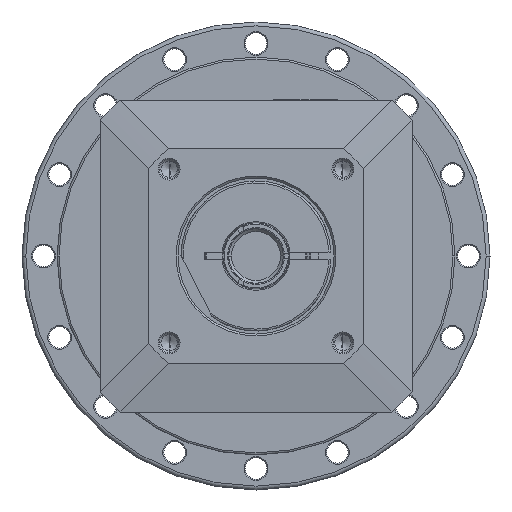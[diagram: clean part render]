
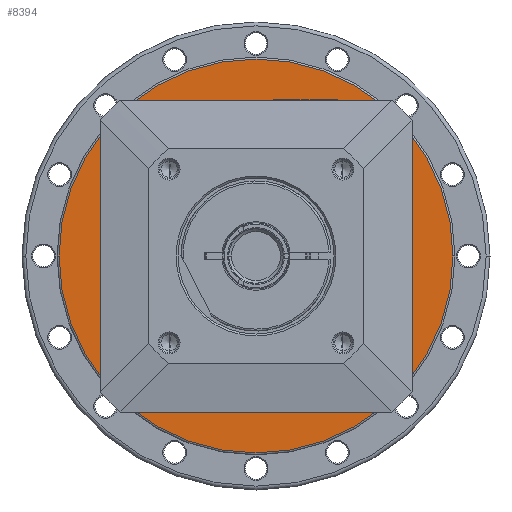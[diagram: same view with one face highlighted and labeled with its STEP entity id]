
A CAD part, left-side view. The second image highlights one B-rep face of the part: STEP entity #8394.
In plain terms, the highlighted planar face has unit normal (-1, 0, 0) as drawn and (1, 0, 0) by its records, which use the part's own axes.
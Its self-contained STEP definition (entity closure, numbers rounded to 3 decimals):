
#7873=CARTESIAN_POINT('',(-10.5,0.,0.));
#7874=DIRECTION('',(-1.,0.,0.));
#7875=DIRECTION('',(0.,-1.,0.));
#7876=AXIS2_PLACEMENT_3D('',#7873,#7874,#7875);
#7878=CARTESIAN_POINT('',(-10.5,0.,0.));
#7879=DIRECTION('',(-1.,0.,0.));
#7880=DIRECTION('',(0.,1.,0.));
#7881=AXIS2_PLACEMENT_3D('',#7878,#7879,#7880);
#7883=CARTESIAN_POINT('',(-10.5,0.,0.));
#7884=DIRECTION('',(-1.,0.,0.));
#7885=DIRECTION('',(0.,-1.,0.));
#7886=AXIS2_PLACEMENT_3D('',#7883,#7884,#7885);
#7888=CARTESIAN_POINT('',(-10.5,0.,0.));
#7889=DIRECTION('',(-1.,0.,0.));
#7890=DIRECTION('',(0.,1.,0.));
#7891=AXIS2_PLACEMENT_3D('',#7888,#7889,#7890);
#7957=CARTESIAN_POINT('',(-10.5,-50.5,0.));
#7958=CARTESIAN_POINT('',(-10.5,50.5,0.));
#7959=VERTEX_POINT('',#7957);
#7960=VERTEX_POINT('',#7958);
#7981=CARTESIAN_POINT('',(-10.5,-38.,0.));
#7982=CARTESIAN_POINT('',(-10.5,38.,0.));
#7983=VERTEX_POINT('',#7981);
#7984=VERTEX_POINT('',#7982);
#8379=CARTESIAN_POINT('',(-10.5,0.,0.));
#8380=DIRECTION('',(1.,0.,0.));
#8381=DIRECTION('',(0.,-1.,0.));
#8382=AXIS2_PLACEMENT_3D('',#8379,#8380,#8381);
#8383=PLANE('',#8382);
#8384=ORIENTED_EDGE('',*,*,#8320,.T.);
#8385=ORIENTED_EDGE('',*,*,#8335,.T.);
#8386=EDGE_LOOP('',(#8384,#8385));
#8387=FACE_OUTER_BOUND('',#8386,.F.);
#8389=ORIENTED_EDGE('',*,*,#8388,.F.);
#8391=ORIENTED_EDGE('',*,*,#8390,.F.);
#8392=EDGE_LOOP('',(#8389,#8391));
#8393=FACE_BOUND('',#8392,.F.);
#8394=ADVANCED_FACE('',(#8387,#8393),#8383,.T.);
#7877=CIRCLE('',#7876,38.);
#7882=CIRCLE('',#7881,38.);
#7887=CIRCLE('',#7886,50.5);
#7892=CIRCLE('',#7891,50.5);
#8320=EDGE_CURVE('',#7959,#7960,#7887,.T.);
#8335=EDGE_CURVE('',#7960,#7959,#7892,.T.);
#8388=EDGE_CURVE('',#7983,#7984,#7877,.T.);
#8390=EDGE_CURVE('',#7984,#7983,#7882,.T.);
